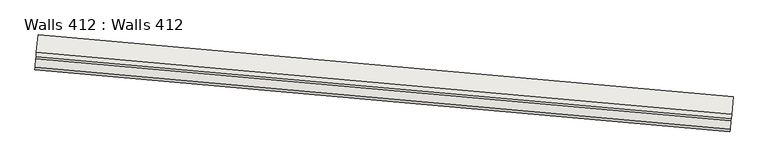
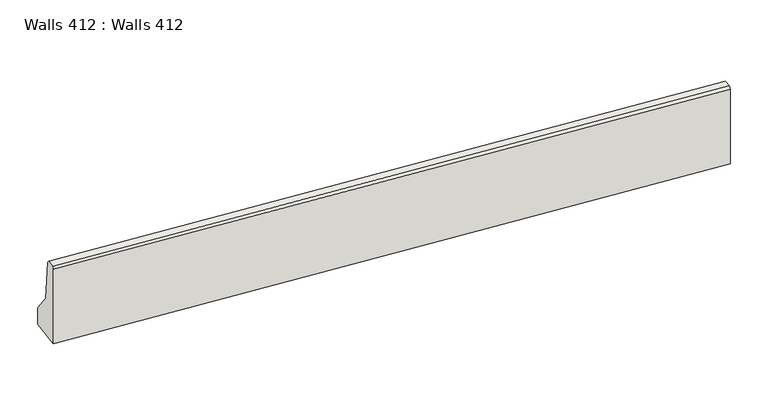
"""IFC4 building model written with IfcOpenShell, lengths in millimetres: wall geometry, Walls 412 : Walls 412."""

from ifc_helpers import new_model, si_unit, frame, origin, place, context, project, spatial, polyline, outline, extrude, source, transform, mapped, element, save


def walls_412_walls_412_47255c04(model_context):
    return source(origin(), model_context, "Body", "SweptSolid", [
        extrude(outline(polyline([(638180.0, 400.0), (638430.0, 200.0), (638935.0, 150.0), (638960.0, 125.0), (638960.0, 25.0), (638935.0, 0.0), (637960.0, 0.0), (637960.0, 400.0), (638180.0, 400.0)])), frame((-515300.3195758, -433173.0300499, 0.0), z_axis=(-0.9960550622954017, 0.08873732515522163, 0.0), x_axis=(0.0, 0.0, 1.0)), (0.0, 0.0, 1.0), 7999.9999999),
    ])


if __name__ == "__main__":
    model = new_model("IFC4")
    model_context = context("Model", 3, world=origin())
    ifc_project = project(units=[si_unit("LENGTHUNIT", "METRE", prefix="MILLI")], contexts=[model_context])
    site = spatial("IfcSite", under=ifc_project)
    building = spatial("IfcBuilding", under=site)
    placement = place(None, origin())
    walls_412_walls_412_shape = walls_412_walls_412_47255c04(model_context)
    element("IfcWall", 1, ObjectType="Walls 412 : Walls 412", at=placement, inside=building, context=model_context, shape_type="MappedRepresentation", body=[
        mapped(walls_412_walls_412_shape, transform((0.0, 0.0, 0.0), x_axis=(1.0, 0.0, 0.0), y_axis=(0.0, 1.0, 0.0), z_axis=(0.0, 0.0, 1.0))),
    ])
    save(model, "model.ifc")
